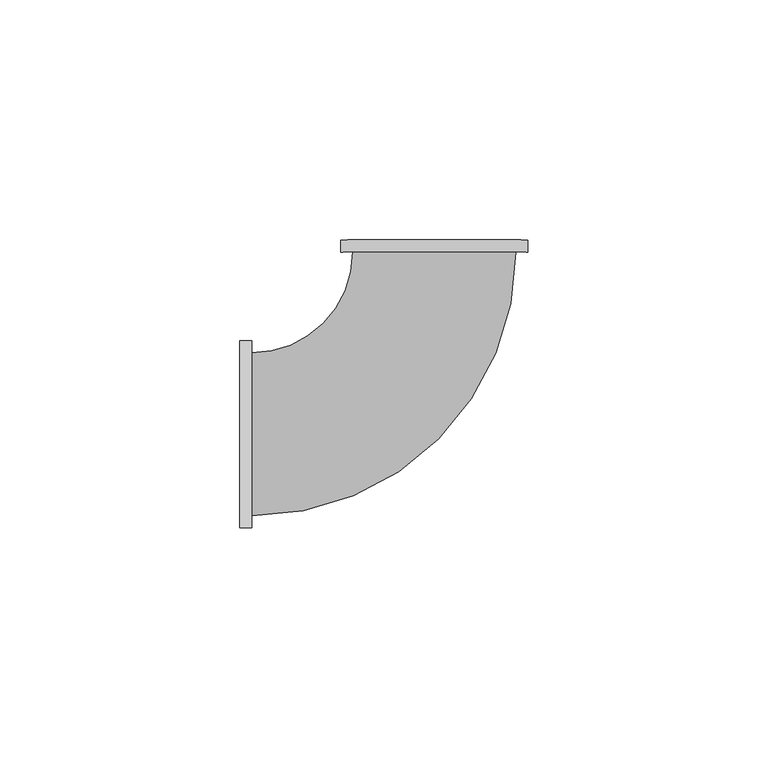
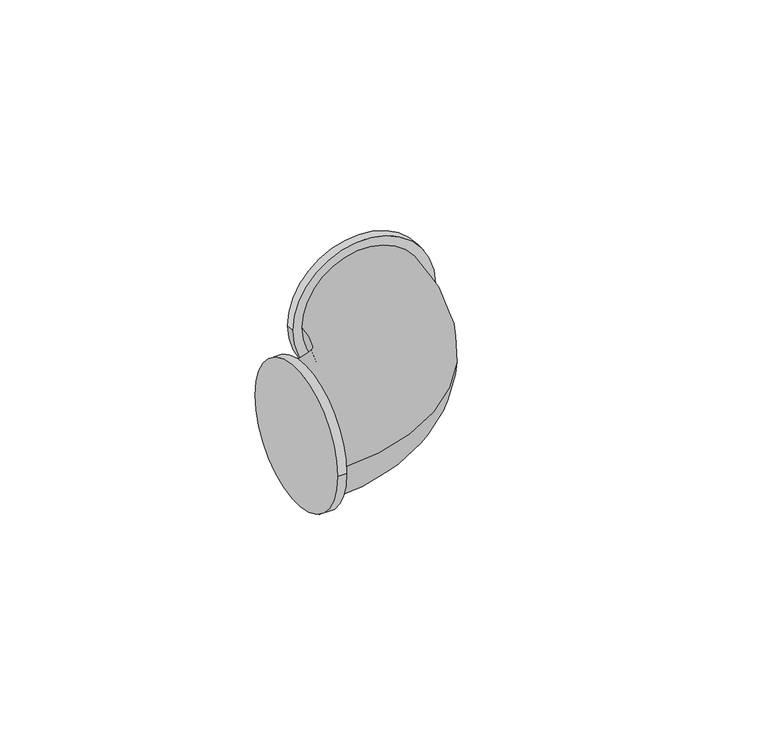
"""IFC4 building model written with IfcOpenShell, lengths in millimetres: pipe fitting geometry, ADSK_ЧугунРезьба_Угольник_ГОСТ8946-75 : Неоцинкованные."""

from ifc_helpers import new_model, si_unit, point, frame, origin, place, context, project, spatial, circle_curve, ellipse_curve, trimmed, source, transform, mapped, element, save
from ifc_brep_helpers import plane_surface, cylinder_surface, revolved_surface, advanced_brep


def pipe_fitting_342b0143(model_context):
    return source(origin(), model_context, "Body", "AdvancedBrep", [
        advanced_brep(
        [(19.5, 40.5, 0.0), (-19.5, 40.5, 0.0), (-38.0, -17.0, 0.0), (17.0, 38.0, 0.0), (-17.0, 38.0, 0.0), (-38.0, 17.0, 0.0), (-40.5, 19.5, 0.0), (-40.5, -19.5, 0.0), (-38.0, 19.5, 0.0), (-38.0, -19.5, 0.0), (19.5, 38.0, 0.0), (-19.5, 38.0, 0.0)],
        [
            (0, 1, circle_curve(frame((0.0, 40.5, 0.0), z_axis=(0.0, 1.0, 0.0), x_axis=(-1.0, 0.0, 0.0)), 19.5)),
            (1, 0, circle_curve(frame((0.0, 40.5, 0.0), z_axis=(0.0, 1.0, 0.0), x_axis=(-1.0, 0.0, 0.0)), 19.5)),
            (2, 3, circle_curve(frame((-38.0, 38.0, 0.0), z_axis=(0.0, 0.0, 1.0), x_axis=(1.0, 0.0, 0.0)), 55.0)),
            (3, 4, circle_curve(frame((0.0, 38.0, 0.0), z_axis=(0.0, -1.0, 0.0), x_axis=(1.0, 0.0, 0.0)), 17.0)),
            (4, 5, circle_curve(frame((-38.0, 38.0, 0.0), z_axis=(0.0, 0.0, -1.0), x_axis=(1.0, 0.0, 0.0)), 21.0)),
            (5, 2, circle_curve(frame((-38.0, 0.0, 0.0), z_axis=(1.0, 0.0, 0.0), x_axis=(0.0, -1.0, 0.0)), 17.0)),
            (2, 5, circle_curve(frame((-38.0, 0.0, 0.0), z_axis=(1.0, 0.0, 0.0), x_axis=(0.0, -1.0, 0.0)), 17.0)),
            (4, 3, circle_curve(frame((0.0, 38.0, 0.0), z_axis=(0.0, -1.0, 0.0), x_axis=(1.0, 0.0, 0.0)), 17.0)),
            (6, 7, circle_curve(frame((-40.5, 0.0, 0.0), z_axis=(-1.0, 0.0, 0.0), x_axis=(0.0, -1.0, 0.0)), 19.5)),
            (7, 6, circle_curve(frame((-40.5, 0.0, 0.0), z_axis=(-1.0, 0.0, 0.0), x_axis=(0.0, -1.0, 0.0)), 19.5)),
            (8, 9, circle_curve(frame((-38.0, 0.0, 0.0), z_axis=(1.0, 0.0, 0.0), x_axis=(0.0, -1.0, 0.0)), 19.5)),
            (9, 8, circle_curve(frame((-38.0, 0.0, 0.0), z_axis=(1.0, 0.0, 0.0), x_axis=(0.0, -1.0, 0.0)), 19.5)),
            (8, 6),
            (7, 9),
            (10, 11, circle_curve(frame((0.0, 38.0, 0.0), z_axis=(0.0, -1.0, 0.0), x_axis=(-1.0, 0.0, 0.0)), 19.5)),
            (11, 10, circle_curve(frame((0.0, 38.0, 0.0), z_axis=(0.0, -1.0, 0.0), x_axis=(-1.0, 0.0, 0.0)), 19.5)),
            (10, 0),
            (1, 11),
        ],
        [
            plane_surface(frame((0.0, 40.5, 0.0), z_axis=(0.0, 1.0, 0.0), x_axis=(0.0, 0.0, 1.0))),
            revolved_surface(trimmed(ellipse_curve(frame((0.0, 38.0, 0.0), z_axis=(0.0, 1.0, 0.0), x_axis=(1.0, 0.0, 0.0)), 17.0, 17.0), [point((-17.0, 38.0, 0.0))], [point((17.0, 38.0, 0.0))], True, "CARTESIAN"), (-38.0, 38.0, 0.0), (0.0, 0.0, -1.0)),
            revolved_surface(trimmed(ellipse_curve(frame((0.0, 38.0, 0.0), z_axis=(0.0, 1.0, 0.0), x_axis=(1.0, 0.0, 0.0)), 17.0, 17.0), [point((17.0, 38.0, 0.0))], [point((-17.0, 38.0, 0.0))], True, "CARTESIAN"), (-38.0, 38.0, 0.0), (0.0, 0.0, -1.0)),
            plane_surface(frame((-40.5, 0.0, 0.0), z_axis=(-1.0, 0.0, 0.0), x_axis=(0.0, 0.0, 1.0))),
            plane_surface(frame((-38.0, 0.0, 0.0), z_axis=(1.0, 0.0, 0.0), x_axis=(0.0, 0.0, 1.0))),
            cylinder_surface(frame((-38.0, 0.0, 0.0), z_axis=(1.0, 0.0, 0.0), x_axis=(0.0, -1.0, 0.0)), 19.5),
            plane_surface(frame((0.0, 38.0, 0.0), z_axis=(0.0, -1.0, 0.0), x_axis=(0.0, 0.0, 1.0))),
            cylinder_surface(frame((0.0, 38.0, 0.0), z_axis=(0.0, -1.0, 0.0), x_axis=(-1.0, 0.0, 0.0)), 19.5),
        ],
        [
            (0, [[1, 2]]),
            (1, [[3, 4, 5, 6]]),
            (2, [[-3, 7, -5, 8]]),
            (3, [[9, 10]]),
            (4, [[11, 12], [-6, -7]]),
            (5, [[-11, 13, -10, 14]]),
            (5, [[-12, -14, -9, -13]]),
            (6, [[15, 16], [-4, -8]]),
            (7, [[-15, 17, -2, 18]]),
            (7, [[-16, -18, -1, -17]]),
        ],
    ),
    ])


if __name__ == "__main__":
    model = new_model("IFC4")
    model_context = context("Model", 3, world=origin())
    ifc_project = project(units=[si_unit("LENGTHUNIT", "METRE", prefix="MILLI")], contexts=[model_context])
    site = spatial("IfcSite", under=ifc_project)
    building = spatial("IfcBuilding", under=site)
    placement = place(None, origin())
    pipe_fitting_shape = pipe_fitting_342b0143(model_context)
    element("IfcPipeFitting", 1, ObjectType="ADSK_ЧугунРезьба_Угольник_ГОСТ8946-75 : Неоцинкованные", at=placement, inside=building, context=model_context, shape_type="MappedRepresentation", body=[
        mapped(pipe_fitting_shape, transform((0.0, 0.0, 0.0), x_axis=(1.0, 0.0, 0.0), y_axis=(0.0, 1.0, 0.0), z_axis=(0.0, 0.0, 1.0))),
    ])
    save(model, "model.ifc")
